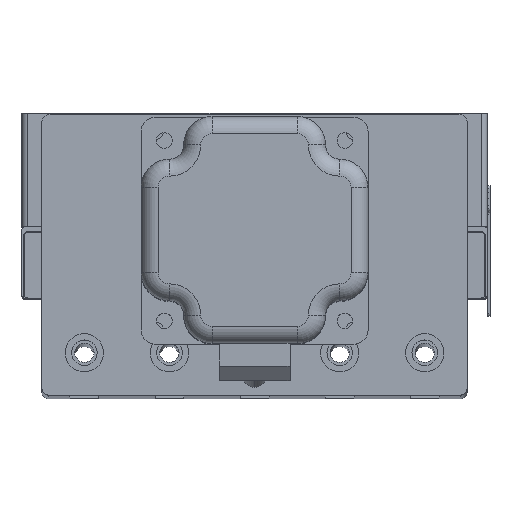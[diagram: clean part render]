
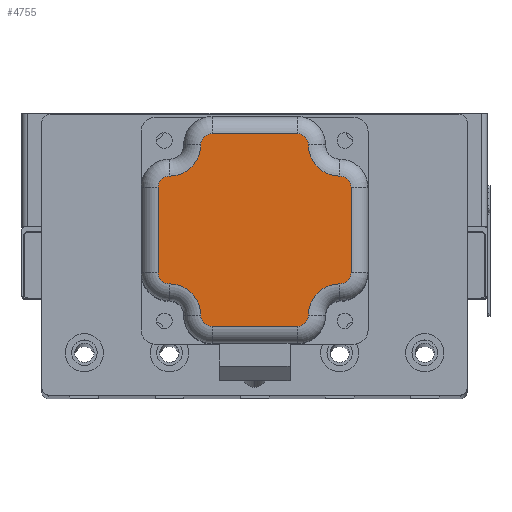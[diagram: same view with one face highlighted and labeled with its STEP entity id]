
A CAD part, top view. The second image highlights one B-rep face of the part: STEP entity #4755.
In plain terms, the highlighted planar face has unit normal (0, 0, 1) as drawn and (0, 0, -1) by its records, which use the part's own axes.
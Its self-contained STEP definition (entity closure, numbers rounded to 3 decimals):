
#387 = CARTESIAN_POINT ( 'NONE',  ( 30., 15., -144.8 ) ) ;
#984 = DIRECTION ( 'NONE',  ( -1., 0., 0. ) ) ;
#1157 = DIRECTION ( 'NONE',  ( 1., 0., 0. ) ) ;
#1230 = EDGE_CURVE ( 'NONE', #22458, #27909, #43985, .T. ) ;
#1381 = AXIS2_PLACEMENT_3D ( 'NONE', #34952, #35423, #13617 ) ;
#2074 = ORIENTED_EDGE ( 'NONE', *, *, #22804, .T. ) ;
#2117 = LINE ( 'NONE', #21720, #30073 ) ;
#3283 = CARTESIAN_POINT ( 'NONE',  ( -15., 34., -144.8 ) ) ;
#3436 = EDGE_CURVE ( 'NONE', #14279, #36308, #9609, .T. ) ;
#4033 = DIRECTION ( 'NONE',  ( 1., 0., 0. ) ) ;
#4072 = CARTESIAN_POINT ( 'NONE',  ( 34., 30., -144.8 ) ) ;
#4743 = ORIENTED_EDGE ( 'NONE', *, *, #3436, .T. ) ;
#4755 = ADVANCED_FACE ( 'NONE', ( #27778 ), #28109, .F. ) ;
#4893 = EDGE_CURVE ( 'NONE', #32486, #25985, #31763, .T. ) ;
#5122 = VECTOR ( 'NONE', #39381, 1000. ) ;
#5783 = ORIENTED_EDGE ( 'NONE', *, *, #10128, .T. ) ;
#5937 = CARTESIAN_POINT ( 'NONE',  ( 15., 30., -144.8 ) ) ;
#6534 = ORIENTED_EDGE ( 'NONE', *, *, #30987, .T. ) ;
#6622 = AXIS2_PLACEMENT_3D ( 'NONE', #39882, #18121, #43582 ) ;
#6747 = VERTEX_POINT ( 'NONE', #29104 ) ;
#6969 = CARTESIAN_POINT ( 'NONE',  ( 30., 19., -144.8 ) ) ;
#7428 = CARTESIAN_POINT ( 'NONE',  ( -30., 15., -144.8 ) ) ;
#7498 = EDGE_CURVE ( 'NONE', #36308, #38453, #28765, .T. ) ;
#8177 = DIRECTION ( 'NONE',  ( 0., 0., -1. ) ) ;
#8484 = CARTESIAN_POINT ( 'NONE',  ( -19., -30., -144.8 ) ) ;
#8658 = AXIS2_PLACEMENT_3D ( 'NONE', #44820, #22953, #1157 ) ;
#9098 = VERTEX_POINT ( 'NONE', #34192 ) ;
#9360 = ORIENTED_EDGE ( 'NONE', *, *, #46171, .T. ) ;
#9609 = CIRCLE ( 'NONE', #8658, 11. ) ;
#9645 = DIRECTION ( 'NONE',  ( 1., 0., 0. ) ) ;
#10128 = EDGE_CURVE ( 'NONE', #37840, #14279, #44635, .T. ) ;
#10617 = DIRECTION ( 'NONE',  ( 0., 0., -1. ) ) ;
#11117 = DIRECTION ( 'NONE',  ( 1., 0., 0. ) ) ;
#11183 = DIRECTION ( 'NONE',  ( 0., 0., -1. ) ) ;
#11425 = CARTESIAN_POINT ( 'NONE',  ( 30., -19., -144.8 ) ) ;
#11594 = EDGE_CURVE ( 'NONE', #40453, #35677, #34207, .T. ) ;
#11625 = DIRECTION ( 'NONE',  ( 0., 0., -1. ) ) ;
#11838 = CARTESIAN_POINT ( 'NONE',  ( 30., -34., -144.8 ) ) ;
#12735 = DIRECTION ( 'NONE',  ( 0., 0., 1. ) ) ;
#12768 = ORIENTED_EDGE ( 'NONE', *, *, #32556, .T. ) ;
#13574 = AXIS2_PLACEMENT_3D ( 'NONE', #32384, #10617, #36042 ) ;
#13617 = DIRECTION ( 'NONE',  ( 1., 0., 0. ) ) ;
#13703 = CARTESIAN_POINT ( 'NONE',  ( 19., 30., -144.8 ) ) ;
#13736 = CARTESIAN_POINT ( 'NONE',  ( 34., -15., -144.8 ) ) ;
#14279 = VERTEX_POINT ( 'NONE', #11425 ) ;
#14423 = DIRECTION ( 'NONE',  ( 1., 0., 0. ) ) ;
#15011 = CARTESIAN_POINT ( 'NONE',  ( -15., -34., -144.8 ) ) ;
#15151 = DIRECTION ( 'NONE',  ( 0., 0., 1. ) ) ;
#15827 = EDGE_CURVE ( 'NONE', #24443, #37840, #40019, .T. ) ;
#18121 = DIRECTION ( 'NONE',  ( 0., 0., 1. ) ) ;
#18475 = EDGE_CURVE ( 'NONE', #26761, #24443, #40871, .T. ) ;
#18647 = AXIS2_PLACEMENT_3D ( 'NONE', #33403, #11625, #37046 ) ;
#18843 = DIRECTION ( 'NONE',  ( 0., 0., -1. ) ) ;
#19434 = CARTESIAN_POINT ( 'NONE',  ( -19., 30., -144.8 ) ) ;
#19983 = CARTESIAN_POINT ( 'NONE',  ( 19., -30., -144.8 ) ) ;
#20503 = ORIENTED_EDGE ( 'NONE', *, *, #46506, .T. ) ;
#20677 = VECTOR ( 'NONE', #29726, 1000. ) ;
#21202 = CARTESIAN_POINT ( 'NONE',  ( -34., -15., -144.8 ) ) ;
#21720 = CARTESIAN_POINT ( 'NONE',  ( 30., 34., -144.8 ) ) ;
#22458 = VERTEX_POINT ( 'NONE', #42219 ) ;
#22804 = EDGE_CURVE ( 'NONE', #38453, #32486, #25173, .T. ) ;
#22953 = DIRECTION ( 'NONE',  ( 0., 0., 1. ) ) ;
#23339 = VERTEX_POINT ( 'NONE', #19434 ) ;
#23806 = EDGE_CURVE ( 'NONE', #31823, #22458, #2117, .T. ) ;
#23858 = CIRCLE ( 'NONE', #18647, 4. ) ;
#24322 = ORIENTED_EDGE ( 'NONE', *, *, #1230, .T. ) ;
#24443 = VERTEX_POINT ( 'NONE', #43161 ) ;
#25173 = LINE ( 'NONE', #11838, #43433 ) ;
#25699 = EDGE_LOOP ( 'NONE', ( #37370, #24322, #9360, #45141, #44287, #5783, #4743, #33790, #2074, #41034, #20503, #6534, #31451, #35626, #26583, #12768 ) ) ;
#25825 = DIRECTION ( 'NONE',  ( 0., 0., -1. ) ) ;
#25985 = VERTEX_POINT ( 'NONE', #8484 ) ;
#26583 = ORIENTED_EDGE ( 'NONE', *, *, #30333, .T. ) ;
#26707 = CIRCLE ( 'NONE', #6622, 11. ) ;
#26761 = VERTEX_POINT ( 'NONE', #6969 ) ;
#27778 = FACE_OUTER_BOUND ( 'NONE', #25699, .T. ) ;
#27909 = VERTEX_POINT ( 'NONE', #13703 ) ;
#28109 = PLANE ( 'NONE',  #1381 ) ;
#28765 = CIRCLE ( 'NONE', #32254, 4. ) ;
#28978 = AXIS2_PLACEMENT_3D ( 'NONE', #5937, #31431, #9645 ) ;
#29091 = AXIS2_PLACEMENT_3D ( 'NONE', #387, #25825, #4033 ) ;
#29104 = CARTESIAN_POINT ( 'NONE',  ( -30., -19., -144.8 ) ) ;
#29726 = DIRECTION ( 'NONE',  ( 0., -1., 0. ) ) ;
#29982 = CARTESIAN_POINT ( 'NONE',  ( -15., 30., -144.8 ) ) ;
#30073 = VECTOR ( 'NONE', #14423, 1000. ) ;
#30333 = EDGE_CURVE ( 'NONE', #9098, #23339, #32468, .T. ) ;
#30532 = CARTESIAN_POINT ( 'NONE',  ( -34., 15., -144.8 ) ) ;
#30659 = CIRCLE ( 'NONE', #45867, 4. ) ;
#30987 = EDGE_CURVE ( 'NONE', #6747, #40453, #23858, .T. ) ;
#31431 = DIRECTION ( 'NONE',  ( 0., 0., -1. ) ) ;
#31451 = ORIENTED_EDGE ( 'NONE', *, *, #11594, .T. ) ;
#31763 = CIRCLE ( 'NONE', #13574, 4. ) ;
#31823 = VERTEX_POINT ( 'NONE', #3283 ) ;
#32254 = AXIS2_PLACEMENT_3D ( 'NONE', #40620, #18843, #44323 ) ;
#32384 = CARTESIAN_POINT ( 'NONE',  ( -15., -30., -144.8 ) ) ;
#32468 = CIRCLE ( 'NONE', #42379, 11. ) ;
#32486 = VERTEX_POINT ( 'NONE', #15011 ) ;
#32556 = EDGE_CURVE ( 'NONE', #23339, #31823, #30659, .T. ) ;
#32894 = DIRECTION ( 'NONE',  ( 0., 0., -1. ) ) ;
#32983 = CARTESIAN_POINT ( 'NONE',  ( 30., -15., -144.8 ) ) ;
#33403 = CARTESIAN_POINT ( 'NONE',  ( -30., -15., -144.8 ) ) ;
#33630 = DIRECTION ( 'NONE',  ( 1., 0., 0. ) ) ;
#33790 = ORIENTED_EDGE ( 'NONE', *, *, #7498, .T. ) ;
#34192 = CARTESIAN_POINT ( 'NONE',  ( -30., 19., -144.8 ) ) ;
#34207 = LINE ( 'NONE', #35733, #5122 ) ;
#34524 = CARTESIAN_POINT ( 'NONE',  ( 30., 30., -144.8 ) ) ;
#34952 = CARTESIAN_POINT ( 'NONE',  ( 30., 30., -144.8 ) ) ;
#35423 = DIRECTION ( 'NONE',  ( 0., 0., 1. ) ) ;
#35626 = ORIENTED_EDGE ( 'NONE', *, *, #36017, .T. ) ;
#35677 = VERTEX_POINT ( 'NONE', #30532 ) ;
#35733 = CARTESIAN_POINT ( 'NONE',  ( -34., 30., -144.8 ) ) ;
#36017 = EDGE_CURVE ( 'NONE', #35677, #9098, #37739, .T. ) ;
#36042 = DIRECTION ( 'NONE',  ( 1., 0., 0. ) ) ;
#36308 = VERTEX_POINT ( 'NONE', #19983 ) ;
#36619 = DIRECTION ( 'NONE',  ( 1., 0., 0. ) ) ;
#36942 = CARTESIAN_POINT ( 'NONE',  ( -30., 30., -144.8 ) ) ;
#37046 = DIRECTION ( 'NONE',  ( 1., 0., 0. ) ) ;
#37370 = ORIENTED_EDGE ( 'NONE', *, *, #23806, .T. ) ;
#37732 = AXIS2_PLACEMENT_3D ( 'NONE', #34524, #12735, #38161 ) ;
#37739 = CIRCLE ( 'NONE', #39792, 4. ) ;
#37840 = VERTEX_POINT ( 'NONE', #13736 ) ;
#38161 = DIRECTION ( 'NONE',  ( 1., 0., 0. ) ) ;
#38453 = VERTEX_POINT ( 'NONE', #42959 ) ;
#39381 = DIRECTION ( 'NONE',  ( 0., 1., 0. ) ) ;
#39792 = AXIS2_PLACEMENT_3D ( 'NONE', #7428, #32894, #11117 ) ;
#39882 = CARTESIAN_POINT ( 'NONE',  ( -30., -30., -144.8 ) ) ;
#40019 = LINE ( 'NONE', #4072, #20677 ) ;
#40453 = VERTEX_POINT ( 'NONE', #21202 ) ;
#40583 = DIRECTION ( 'NONE',  ( 1., 0., 0. ) ) ;
#40620 = CARTESIAN_POINT ( 'NONE',  ( 15., -30., -144.8 ) ) ;
#40871 = CIRCLE ( 'NONE', #29091, 4. ) ;
#41034 = ORIENTED_EDGE ( 'NONE', *, *, #4893, .T. ) ;
#42219 = CARTESIAN_POINT ( 'NONE',  ( 15., 34., -144.8 ) ) ;
#42379 = AXIS2_PLACEMENT_3D ( 'NONE', #36942, #15151, #40583 ) ;
#42959 = CARTESIAN_POINT ( 'NONE',  ( 15., -34., -144.8 ) ) ;
#43161 = CARTESIAN_POINT ( 'NONE',  ( 34., 15., -144.8 ) ) ;
#43433 = VECTOR ( 'NONE', #984, 1000. ) ;
#43582 = DIRECTION ( 'NONE',  ( 1., 0., 0. ) ) ;
#43985 = CIRCLE ( 'NONE', #28978, 4. ) ;
#44287 = ORIENTED_EDGE ( 'NONE', *, *, #15827, .T. ) ;
#44323 = DIRECTION ( 'NONE',  ( 1., 0., 0. ) ) ;
#44635 = CIRCLE ( 'NONE', #45192, 4. ) ;
#44820 = CARTESIAN_POINT ( 'NONE',  ( 30., -30., -144.8 ) ) ;
#45141 = ORIENTED_EDGE ( 'NONE', *, *, #18475, .T. ) ;
#45192 = AXIS2_PLACEMENT_3D ( 'NONE', #32983, #11183, #36619 ) ;
#45867 = AXIS2_PLACEMENT_3D ( 'NONE', #29982, #8177, #33630 ) ;
#46158 = CIRCLE ( 'NONE', #37732, 11. ) ;
#46171 = EDGE_CURVE ( 'NONE', #27909, #26761, #46158, .T. ) ;
#46506 = EDGE_CURVE ( 'NONE', #25985, #6747, #26707, .T. ) ;
